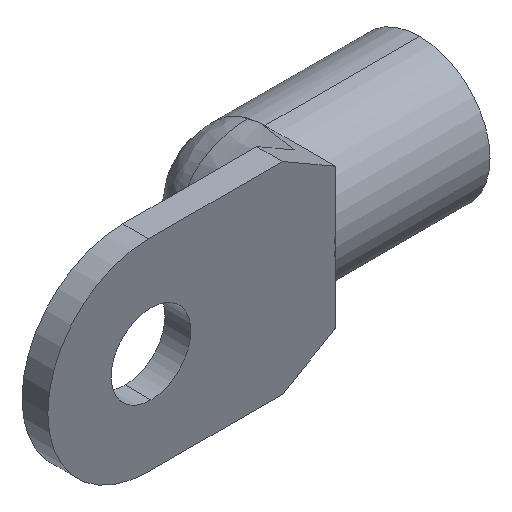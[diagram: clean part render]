
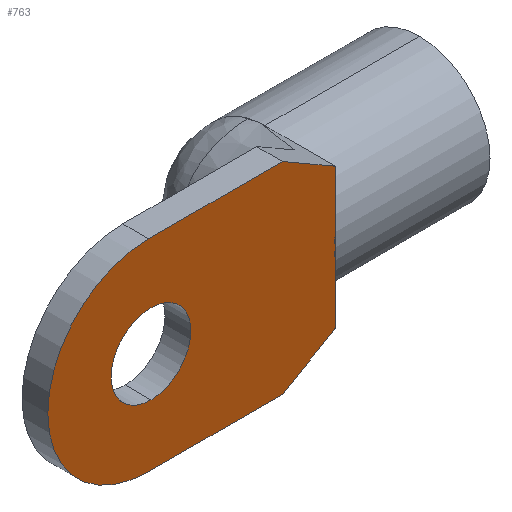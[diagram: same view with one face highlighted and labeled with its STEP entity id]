
A CAD part, isometric view. The second image highlights one B-rep face of the part: STEP entity #763.
In plain terms, the highlighted planar face has unit normal (0, -1, 0).
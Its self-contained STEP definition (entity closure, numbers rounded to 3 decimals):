
#9 = EDGE_CURVE ( 'NONE', #257, #893, #933, .T. ) ;
#11 = FACE_OUTER_BOUND ( 'NONE', #513, .T. ) ;
#23 = CARTESIAN_POINT ( 'NONE',  ( -11.258, 0., -21.5 ) ) ;
#44 = CARTESIAN_POINT ( 'NONE',  ( -39.8, 0., 0. ) ) ;
#51 = LINE ( 'NONE', #565, #429 ) ;
#55 = CARTESIAN_POINT ( 'NONE',  ( 0., 0., 0. ) ) ;
#60 = EDGE_CURVE ( 'NONE', #193, #756, #320, .T. ) ;
#71 = DIRECTION ( 'NONE',  ( 0., -1., 0. ) ) ;
#110 = ORIENTED_EDGE ( 'NONE', *, *, #163, .T. ) ;
#113 = DIRECTION ( 'NONE',  ( 0., 0., 1. ) ) ;
#116 = DIRECTION ( 'NONE',  ( 0., 0., 1. ) ) ;
#126 = CARTESIAN_POINT ( 'NONE',  ( 0., 0., 0. ) ) ;
#134 = CARTESIAN_POINT ( 'NONE',  ( -11.258, 0., 21.5 ) ) ;
#157 = ORIENTED_EDGE ( 'NONE', *, *, #9, .T. ) ;
#158 = EDGE_CURVE ( 'NONE', #756, #193, #432, .T. ) ;
#163 = EDGE_CURVE ( 'NONE', #893, #330, #641, .T. ) ;
#175 = DIRECTION ( 'NONE',  ( 1., 0., 0. ) ) ;
#178 = EDGE_CURVE ( 'NONE', #880, #658, #616, .T. ) ;
#193 = VERTEX_POINT ( 'NONE', #909 ) ;
#211 = FACE_BOUND ( 'NONE', #236, .T. ) ;
#213 = ORIENTED_EDGE ( 'NONE', *, *, #178, .T. ) ;
#236 = EDGE_LOOP ( 'NONE', ( #621, #365 ) ) ;
#257 = VERTEX_POINT ( 'NONE', #885 ) ;
#266 = EDGE_CURVE ( 'NONE', #658, #257, #743, .T. ) ;
#280 = AXIS2_PLACEMENT_3D ( 'NONE', #519, #71, #607 ) ;
#282 = DIRECTION ( 'NONE',  ( 0., -1., 0. ) ) ;
#292 = ORIENTED_EDGE ( 'NONE', *, *, #646, .T. ) ;
#320 = CIRCLE ( 'NONE', #747, 8.5 ) ;
#330 = VERTEX_POINT ( 'NONE', #698 ) ;
#360 = DIRECTION ( 'NONE',  ( 0., 0., 1. ) ) ;
#365 = ORIENTED_EDGE ( 'NONE', *, *, #60, .F. ) ;
#371 = EDGE_CURVE ( 'NONE', #444, #880, #51, .T. ) ;
#409 = VECTOR ( 'NONE', #825, 1000. ) ;
#429 = VECTOR ( 'NONE', #647, 1000. ) ;
#432 = CIRCLE ( 'NONE', #280, 8.5 ) ;
#444 = VERTEX_POINT ( 'NONE', #786 ) ;
#446 = CARTESIAN_POINT ( 'NONE',  ( -11.258, 0., 21.5 ) ) ;
#447 = ORIENTED_EDGE ( 'NONE', *, *, #266, .T. ) ;
#479 = AXIS2_PLACEMENT_3D ( 'NONE', #44, #574, #113 ) ;
#499 = CARTESIAN_POINT ( 'NONE',  ( -39.8, 0., 21.5 ) ) ;
#504 = PLANE ( 'NONE',  #996 ) ;
#513 = EDGE_LOOP ( 'NONE', ( #157, #110, #608, #292, #969, #213, #447 ) ) ;
#519 = CARTESIAN_POINT ( 'NONE',  ( -39.3, 0., 0. ) ) ;
#560 = LINE ( 'NONE', #659, #994 ) ;
#565 = CARTESIAN_POINT ( 'NONE',  ( 0., 0., 15. ) ) ;
#574 = DIRECTION ( 'NONE',  ( 0., -1., 0. ) ) ;
#607 = DIRECTION ( 'NONE',  ( 0., 0., -1. ) ) ;
#608 = ORIENTED_EDGE ( 'NONE', *, *, #950, .T. ) ;
#616 = LINE ( 'NONE', #446, #999 ) ;
#621 = ORIENTED_EDGE ( 'NONE', *, *, #158, .F. ) ;
#641 = LINE ( 'NONE', #985, #409 ) ;
#646 = EDGE_CURVE ( 'NONE', #829, #444, #849, .T. ) ;
#647 = DIRECTION ( 'NONE',  ( -0.866, 0., 0.5 ) ) ;
#651 = VECTOR ( 'NONE', #887, 1000. ) ;
#658 = VERTEX_POINT ( 'NONE', #499 ) ;
#659 = CARTESIAN_POINT ( 'NONE',  ( 0., 0., -15. ) ) ;
#673 = CARTESIAN_POINT ( 'NONE',  ( -11.258, 0., -21.5 ) ) ;
#681 = DIRECTION ( 'NONE',  ( -1., 0., 0. ) ) ;
#698 = CARTESIAN_POINT ( 'NONE',  ( 0., 0., -15. ) ) ;
#726 = CARTESIAN_POINT ( 'NONE',  ( 0., 0., -15. ) ) ;
#727 = VECTOR ( 'NONE', #175, 1000. ) ;
#736 = CARTESIAN_POINT ( 'NONE',  ( -39.3, 0., -8.5 ) ) ;
#738 = CARTESIAN_POINT ( 'NONE',  ( -39.3, 0., 0. ) ) ;
#743 = CIRCLE ( 'NONE', #479, 21.5 ) ;
#747 = AXIS2_PLACEMENT_3D ( 'NONE', #738, #282, #817 ) ;
#756 = VERTEX_POINT ( 'NONE', #736 ) ;
#763 = ADVANCED_FACE ( 'NONE', ( #11, #211 ), #504, .F. ) ;
#786 = CARTESIAN_POINT ( 'NONE',  ( 0., 0., 15. ) ) ;
#817 = DIRECTION ( 'NONE',  ( 0., 0., -1. ) ) ;
#818 = DIRECTION ( 'NONE',  ( 0., 1., 0. ) ) ;
#825 = DIRECTION ( 'NONE',  ( 0.866, 0., 0.5 ) ) ;
#829 = VERTEX_POINT ( 'NONE', #55 ) ;
#849 = LINE ( 'NONE', #726, #651 ) ;
#880 = VERTEX_POINT ( 'NONE', #134 ) ;
#885 = CARTESIAN_POINT ( 'NONE',  ( -39.8, 0., -21.5 ) ) ;
#887 = DIRECTION ( 'NONE',  ( 0., 0., 1. ) ) ;
#893 = VERTEX_POINT ( 'NONE', #673 ) ;
#909 = CARTESIAN_POINT ( 'NONE',  ( -39.3, 0., 8.5 ) ) ;
#933 = LINE ( 'NONE', #23, #727 ) ;
#950 = EDGE_CURVE ( 'NONE', #330, #829, #560, .T. ) ;
#969 = ORIENTED_EDGE ( 'NONE', *, *, #371, .T. ) ;
#985 = CARTESIAN_POINT ( 'NONE',  ( 0., 0., -15. ) ) ;
#994 = VECTOR ( 'NONE', #116, 1000. ) ;
#996 = AXIS2_PLACEMENT_3D ( 'NONE', #126, #818, #360 ) ;
#999 = VECTOR ( 'NONE', #681, 1000. ) ;
